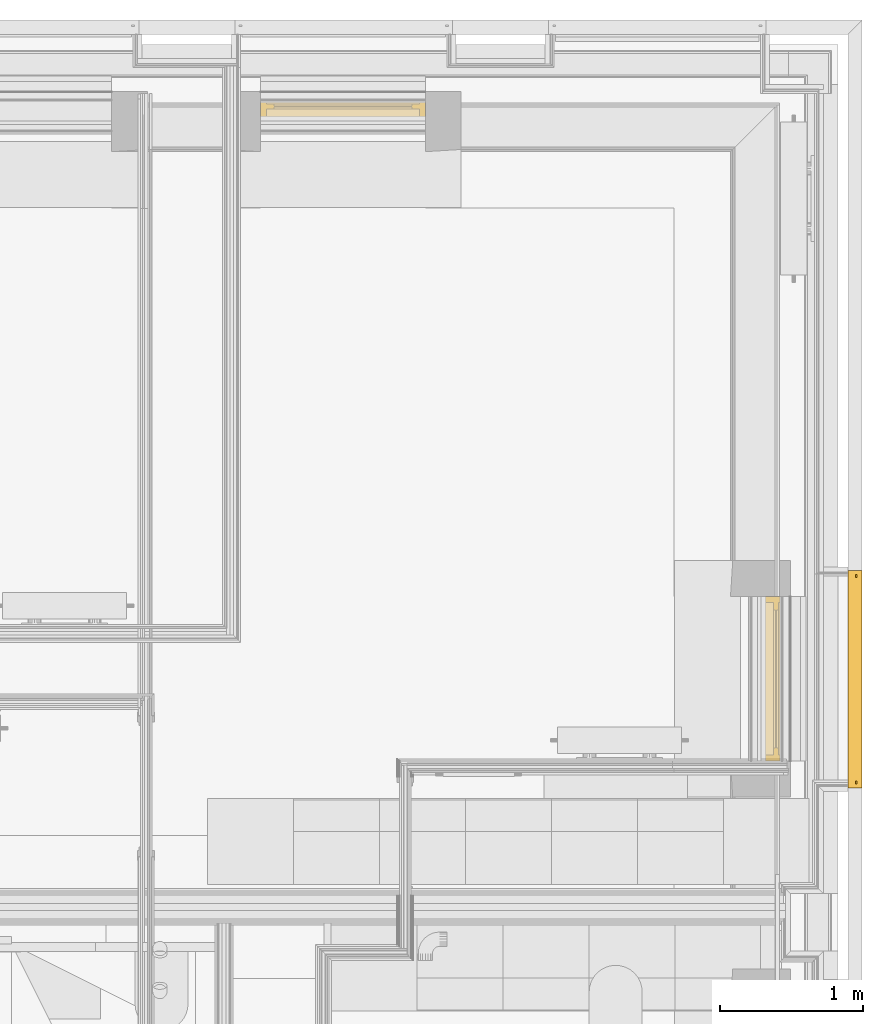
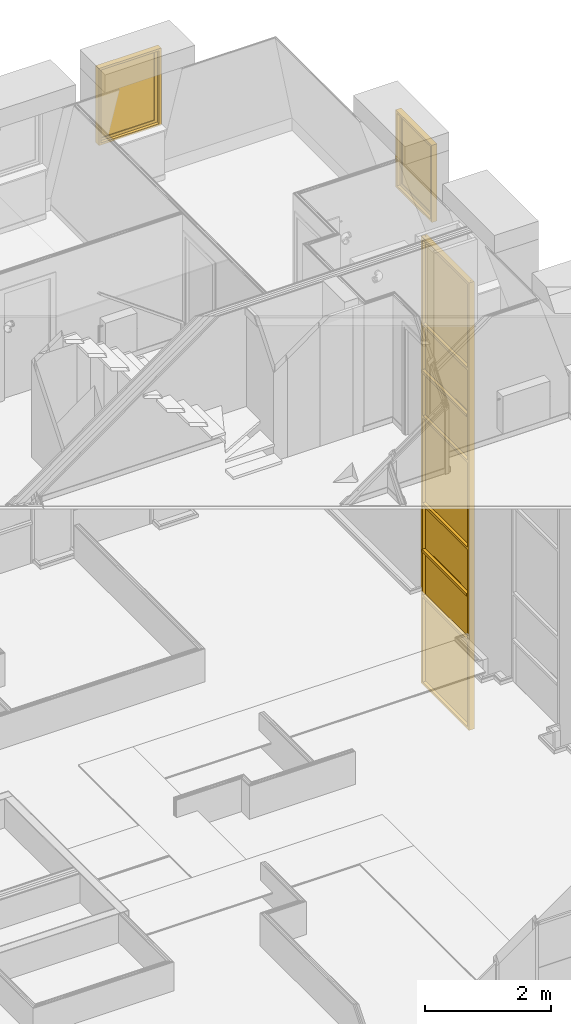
# One storey, part 140 of 169: 2 windows, 1 curtain wall.
"""IFC2X3 building model written with IfcOpenShell, lengths in metres."""

from ifc_helpers import new_model, entity, si_unit, converted_unit, derived_unit, money_unit, direction, frame, origin_with_axes, place, context, subcontext, project, spatial, faceted_brep, material, type_object, element, save


model = new_model("IFC2X3")

# Units and contexts
model_context = context("Model", 3, precision=1e-05, world=origin_with_axes(), true_north=direction((0.0, 1.0)))
body_context = subcontext(model_context, "Body", "Model", "MODEL_VIEW", scale=1.0)
ifc_project = project(units=[si_unit("LENGTHUNIT", "METRE"), si_unit("AREAUNIT", "SQUARE_METRE"), si_unit("VOLUMEUNIT", "CUBIC_METRE"), si_unit("ABSORBEDDOSEUNIT", "GRAY"), si_unit("AMOUNTOFSUBSTANCEUNIT", "MOLE"), si_unit("DOSEEQUIVALENTUNIT", "SIEVERT"), si_unit("ELECTRICCAPACITANCEUNIT", "FARAD"), si_unit("ELECTRICCHARGEUNIT", "COULOMB"), si_unit("ELECTRICCONDUCTANCEUNIT", "SIEMENS"), si_unit("ELECTRICCURRENTUNIT", "AMPERE"), si_unit("ELECTRICRESISTANCEUNIT", "OHM"), si_unit("ELECTRICVOLTAGEUNIT", "VOLT"), si_unit("ENERGYUNIT", "JOULE"), si_unit("FORCEUNIT", "NEWTON"), si_unit("FREQUENCYUNIT", "HERTZ"), si_unit("ILLUMINANCEUNIT", "LUX"), si_unit("INDUCTANCEUNIT", "HENRY"), si_unit("LUMINOUSFLUXUNIT", "LUMEN"), si_unit("LUMINOUSINTENSITYUNIT", "CANDELA"), si_unit("MAGNETICFLUXDENSITYUNIT", "TESLA"), si_unit("MAGNETICFLUXUNIT", "WEBER"), si_unit("MASSUNIT", "GRAM"), converted_unit("PLANEANGLEUNIT", "degree", entity("IfcReal", 0.0174532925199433), si_unit("PLANEANGLEUNIT", "RADIAN"), dimensions=[0, 0, 0, 0, 0, 0, 0]), si_unit("POWERUNIT", "WATT"), si_unit("PRESSUREUNIT", "PASCAL"), si_unit("RADIOACTIVITYUNIT", "BECQUEREL"), si_unit("SOLIDANGLEUNIT", "STERADIAN"), si_unit("THERMODYNAMICTEMPERATUREUNIT", "KELVIN"), si_unit("TIMEUNIT", "SECOND"), derived_unit("ACCELERATIONUNIT", [(si_unit("LENGTHUNIT", "METRE"), 1), (si_unit("TIMEUNIT", "SECOND"), -2)]), derived_unit("ANGULARVELOCITYUNIT", [(converted_unit("PLANEANGLEUNIT", "degree", entity("IfcReal", 0.0174532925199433), si_unit("PLANEANGLEUNIT", "RADIAN"), dimensions=[0, 0, 0, 0, 0, 0, 0]), 1), (si_unit("TIMEUNIT", "SECOND"), -1)]), derived_unit("CURVATUREUNIT", [(converted_unit("PLANEANGLEUNIT", "degree", entity("IfcReal", 0.0174532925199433), si_unit("PLANEANGLEUNIT", "RADIAN"), dimensions=[0, 0, 0, 0, 0, 0, 0]), 1), (si_unit("LENGTHUNIT", "METRE"), -1)]), derived_unit("DYNAMICVISCOSITYUNIT", [(si_unit("PRESSUREUNIT", "PASCAL"), 1), (si_unit("TIMEUNIT", "SECOND"), 1)]), derived_unit("HEATFLUXDENSITYUNIT", [(si_unit("POWERUNIT", "WATT"), 1), (si_unit("LENGTHUNIT", "METRE"), -2)]), derived_unit("HEATINGVALUEUNIT", [(si_unit("ENERGYUNIT", "JOULE"), 1), (si_unit("MASSUNIT", "GRAM"), -1)]), derived_unit("INTEGERCOUNTRATEUNIT", [(si_unit("TIMEUNIT", "SECOND"), -1)]), derived_unit("IONCONCENTRATIONUNIT", [(si_unit("MASSUNIT", "GRAM"), 1), (si_unit("VOLUMEUNIT", "CUBIC_METRE"), -1)]), derived_unit("ISOTHERMALMOISTURECAPACITYUNIT", [(si_unit("VOLUMEUNIT", "CUBIC_METRE"), 1), (si_unit("MASSUNIT", "GRAM"), -1)]), derived_unit("KINEMATICVISCOSITYUNIT", [(si_unit("AREAUNIT", "SQUARE_METRE"), 1), (si_unit("TIMEUNIT", "SECOND"), -1)]), derived_unit("LINEARFORCEUNIT", [(si_unit("FORCEUNIT", "NEWTON"), 1), (si_unit("LENGTHUNIT", "METRE"), -1)]), derived_unit("LINEARMOMENTUNIT", [(si_unit("FORCEUNIT", "NEWTON"), 1), (si_unit("LENGTHUNIT", "METRE"), -1)]), derived_unit("LINEARSTIFFNESSUNIT", [(si_unit("FORCEUNIT", "NEWTON"), 1), (si_unit("LENGTHUNIT", "METRE"), -1)]), derived_unit("LINEARVELOCITYUNIT", [(si_unit("LENGTHUNIT", "METRE"), 1), (si_unit("TIMEUNIT", "SECOND"), -1)]), derived_unit("LUMINOUSINTENSITYDISTRIBUTIONUNIT", [(si_unit("LUMINOUSINTENSITYUNIT", "CANDELA"), 1), (si_unit("LUMINOUSFLUXUNIT", "LUMEN"), -1)]), derived_unit("MASSDENSITYUNIT", [(si_unit("MASSUNIT", "GRAM"), 1), (si_unit("VOLUMEUNIT", "CUBIC_METRE"), -1)]), derived_unit("MASSFLOWRATEUNIT", [(si_unit("MASSUNIT", "GRAM"), 1), (si_unit("TIMEUNIT", "SECOND"), -1)]), derived_unit("MASSPERLENGTHUNIT", [(si_unit("MASSUNIT", "GRAM"), 1), (si_unit("LENGTHUNIT", "METRE"), -1)]), derived_unit("MODULUSOFELASTICITYUNIT", [(si_unit("FORCEUNIT", "NEWTON"), 1), (si_unit("AREAUNIT", "SQUARE_METRE"), -1)]), derived_unit("MODULUSOFLINEARSUBGRADEREACTIONUNIT", [(si_unit("FORCEUNIT", "NEWTON"), 1), (si_unit("LENGTHUNIT", "METRE"), -2)]), derived_unit("MODULUSOFROTATIONALSUBGRADEREACTIONUNIT", [(si_unit("FORCEUNIT", "NEWTON"), 1), (si_unit("LENGTHUNIT", "METRE"), 1)]), derived_unit("MODULUSOFSUBGRADEREACTIONUNIT", [(si_unit("FORCEUNIT", "NEWTON"), 1), (si_unit("VOLUMEUNIT", "CUBIC_METRE"), -1)]), derived_unit("MOISTUREDIFFUSIVITYUNIT", [(si_unit("VOLUMEUNIT", "CUBIC_METRE"), 1), (si_unit("TIMEUNIT", "SECOND"), -1)]), derived_unit("MOLECULARWEIGHTUNIT", [(si_unit("MASSUNIT", "GRAM"), 1), (si_unit("AMOUNTOFSUBSTANCEUNIT", "MOLE"), -1)]), derived_unit("PLANARFORCEUNIT", [(si_unit("FORCEUNIT", "NEWTON"), 1), (si_unit("LENGTHUNIT", "METRE"), -2)]), derived_unit("ROTATIONALFREQUENCYUNIT", [(si_unit("TIMEUNIT", "SECOND"), -1)]), derived_unit("ROTATIONALMASSUNIT", [(si_unit("MASSUNIT", "GRAM"), 1), (si_unit("LENGTHUNIT", "METRE"), 2)]), derived_unit("ROTATIONALSTIFFNESSUNIT", [(si_unit("FORCEUNIT", "NEWTON"), 1), (si_unit("LENGTHUNIT", "METRE"), 1), (converted_unit("PLANEANGLEUNIT", "degree", entity("IfcReal", 0.0174532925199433), si_unit("PLANEANGLEUNIT", "RADIAN"), dimensions=[0, 0, 0, 0, 0, 0, 0]), -1)]), derived_unit("SECTIONAREAINTEGRALUNIT", [(si_unit("LENGTHUNIT", "METRE"), 5)]), derived_unit("SECTIONMODULUSUNIT", [(si_unit("LENGTHUNIT", "METRE"), 3)]), derived_unit("SHEARMODULUSUNIT", [(si_unit("FORCEUNIT", "NEWTON"), 1), (si_unit("AREAUNIT", "SQUARE_METRE"), -1)]), derived_unit("SOUNDPOWERUNIT", [(si_unit("ENERGYUNIT", "JOULE"), 1), (si_unit("TIMEUNIT", "SECOND"), -1)]), derived_unit("SPECIFICHEATCAPACITYUNIT", [(si_unit("FORCEUNIT", "NEWTON"), 1), (si_unit("MASSUNIT", "GRAM"), -1), (si_unit("THERMODYNAMICTEMPERATUREUNIT", "KELVIN"), -1)]), derived_unit("TEMPERATUREGRADIENTUNIT", [(si_unit("THERMODYNAMICTEMPERATUREUNIT", "KELVIN"), 1), (si_unit("LENGTHUNIT", "METRE"), -1)]), derived_unit("THERMALADMITTANCEUNIT", [(si_unit("POWERUNIT", "WATT"), 1), (si_unit("AREAUNIT", "SQUARE_METRE"), -1), (si_unit("THERMODYNAMICTEMPERATUREUNIT", "KELVIN"), -1)]), derived_unit("THERMALCONDUCTANCEUNIT", [(si_unit("POWERUNIT", "WATT"), 1), (si_unit("LENGTHUNIT", "METRE"), -1), (si_unit("THERMODYNAMICTEMPERATUREUNIT", "KELVIN"), -1)]), derived_unit("THERMALEXPANSIONCOEFFICIENTUNIT", [(si_unit("THERMODYNAMICTEMPERATUREUNIT", "KELVIN"), -1)]), derived_unit("THERMALRESISTANCEUNIT", [(si_unit("AREAUNIT", "SQUARE_METRE"), 1), (si_unit("POWERUNIT", "WATT"), -1)]), derived_unit("THERMALTRANSMITTANCEUNIT", [(si_unit("POWERUNIT", "WATT"), 1), (si_unit("AREAUNIT", "SQUARE_METRE"), -1), (si_unit("THERMODYNAMICTEMPERATUREUNIT", "KELVIN"), -1)]), derived_unit("TORQUEUNIT", [(si_unit("FORCEUNIT", "NEWTON"), 1), (si_unit("LENGTHUNIT", "METRE"), 1)]), derived_unit("VAPORPERMEABILITYUNIT", [(si_unit("MASSUNIT", "GRAM"), 1), (si_unit("TIMEUNIT", "SECOND"), -1)]), derived_unit("VOLUMETRICFLOWRATEUNIT", [(si_unit("VOLUMEUNIT", "CUBIC_METRE"), 1), (si_unit("TIMEUNIT", "SECOND"), -1)]), derived_unit("WARPINGCONSTANTUNIT", [(si_unit("LENGTHUNIT", "METRE"), 6)]), derived_unit("WARPINGMOMENTUNIT", [(si_unit("FORCEUNIT", "NEWTON"), 1), (si_unit("LENGTHUNIT", "METRE"), 2)]), money_unit("GBP")], contexts=[model_context])

# Site, building, storey
site_placement = place(None, origin_with_axes())
site = spatial("IfcSite", under=ifc_project, at=site_placement, Name="Site", CompositionType="ELEMENT")
building_placement = place(site_placement, origin_with_axes())
building = spatial("IfcBuilding", under=site, at=building_placement, Name="Building01", CompositionType="ELEMENT")
storey_placement = place(building_placement, frame((0.0, 0.0, 5.15), z_axis=(0.0, 0.0, 1.0), x_axis=(1.0, 0.0, 0.0)))
storey = spatial("IfcBuildingStorey", under=building, at=storey_placement, Name="1F", CompositionType="ELEMENT", Elevation=5.15)

# Curtain wall
ifc_material_1 = material(Name="A-CurtainWall_Frame")
curtain_wall_type = type_object("IfcCurtainWallType", Name="Pattern - Maximum Spacing", PredefinedType="NOTDEFINED")
curtain_wall_placement = place(storey_placement, frame((0.0, 0.0, -5.15), z_axis=(0.0, 0.0, 1.0), x_axis=(1.0, 0.0, 0.0)))
element("IfcCurtainWall", 1, at=curtain_wall_placement, inside=storey, type_object=curtain_wall_type, material=ifc_material_1, Name="30", ObjectType="Pattern - Maximum Spacing", context=body_context, shape_type="Brep", body=[
    faceted_brep([(26.935, 9.56718, 6.045508), (26.945, 9.56718, 6.045508), (26.945, 9.56718, 7.729632), (26.935, 9.56718, 7.729632), (26.935, 11.02718, 6.045508), (26.945, 11.02718, 6.045508), (26.935, 11.02718, 7.729632), (26.945, 11.02718, 7.729632)], [[[0, 1, 2, 3]], [[4, 5, 1, 0]], [[6, 7, 5, 4]], [[3, 2, 7, 6]], [[1, 5, 7, 2]], [[3, 6, 4, 0]]]),
    faceted_brep([(26.935, 9.56718, 6.015508), (26.945, 9.56718, 6.015508), (26.945, 9.58718, 6.015508), (26.98, 9.58718, 6.015508), (26.98, 9.53718, 6.015508), (26.88, 9.53718, 6.015508), (26.88, 9.58718, 6.015508), (26.935, 9.58718, 6.015508), (26.935, 9.58718, 7.734632), (26.935, 9.56718, 7.734632), (26.945, 9.56718, 7.734632), (26.945, 9.58718, 7.734632), (26.98, 9.58718, 7.734632), (26.98, 9.53718, 7.734632), (26.88, 9.53718, 7.734632), (26.88, 9.58718, 7.734632)], [[[0, 1, 2, 3, 4, 5, 6, 7]], [[7, 8, 9, 0]], [[0, 9, 10, 1]], [[1, 10, 11, 2]], [[2, 11, 12, 3]], [[3, 12, 13, 4]], [[4, 13, 14, 5]], [[5, 14, 15, 6]], [[6, 15, 8, 7]]]),
    faceted_brep([(26.935, 11.00718, 6.045508), (26.945, 11.00718, 6.045508), (26.945, 11.00718, 6.065508), (26.98, 11.00718, 6.065508), (26.98, 11.00718, 6.015508), (26.88, 11.00718, 6.015508), (26.88, 11.00718, 6.065508), (26.935, 11.00718, 6.065508), (26.935, 9.58718, 6.065508), (26.935, 9.58718, 6.045508), (26.945, 9.58718, 6.045508), (26.945, 9.58718, 6.065508), (26.98, 9.58718, 6.065508), (26.98, 9.58718, 6.015508), (26.88, 9.58718, 6.015508), (26.88, 9.58718, 6.065508)], [[[0, 1, 2, 3, 4, 5, 6, 7]], [[7, 8, 9, 0]], [[0, 9, 10, 1]], [[1, 10, 11, 2]], [[2, 11, 12, 3]], [[3, 12, 13, 4]], [[4, 13, 14, 5]], [[5, 14, 15, 6]], [[6, 15, 8, 7]], [[8, 15, 14, 13, 12, 11, 10, 9]]]),
    faceted_brep([(26.88, 11.00718, 6.015508), (26.88, 11.00718, 7.734632), (26.88, 11.05718, 7.734632), (26.88, 11.05718, 6.015508), (26.935, 11.00718, 6.015508), (26.935, 11.00718, 7.734632), (26.935, 11.02718, 6.015508), (26.935, 11.02718, 7.734632), (26.945, 11.02718, 6.015508), (26.945, 11.02718, 7.734632), (26.945, 11.00718, 6.015508), (26.945, 11.00718, 7.734632), (26.98, 11.00718, 6.015508), (26.98, 11.00718, 7.734632), (26.98, 11.05718, 6.015508), (26.98, 11.05718, 7.734632)], [[[0, 1, 2, 3]], [[4, 5, 1, 0]], [[6, 7, 5, 4]], [[8, 9, 7, 6]], [[10, 11, 9, 8]], [[12, 13, 11, 10]], [[14, 15, 13, 12]], [[3, 2, 15, 14]], [[14, 12, 10, 8, 6, 4, 0, 3]]]),
    faceted_brep([(26.935, 9.58718, 7.729632), (26.945, 9.58718, 7.729632), (26.945, 9.58718, 7.709632), (26.98, 9.58718, 7.709632), (26.98, 9.58718, 7.759632), (26.945, 9.58718, 7.759632), (26.945, 9.58718, 7.739632), (26.935, 9.58718, 7.739632), (26.935, 9.58718, 7.759632), (26.88, 9.58718, 7.759632), (26.88, 9.58718, 7.709632), (26.935, 9.58718, 7.709632), (26.935, 11.00718, 7.709632), (26.935, 11.00718, 7.729632), (26.945, 11.00718, 7.729632), (26.945, 11.00718, 7.709632), (26.98, 11.00718, 7.709632), (26.98, 11.00718, 7.759632), (26.945, 11.00718, 7.759632), (26.935, 11.00718, 7.739632), (26.935, 11.00718, 7.759632), (26.945, 11.00718, 7.739632), (26.88, 11.00718, 7.709632), (26.88, 11.00718, 7.759632)], [[[0, 1, 2, 3, 4, 5, 6, 7, 8, 9, 10, 11]], [[11, 12, 13, 0]], [[0, 13, 14, 1]], [[1, 14, 15, 2]], [[2, 15, 16, 3]], [[3, 16, 17, 4]], [[4, 17, 18, 5]], [[7, 19, 20, 8]], [[6, 21, 19, 7]], [[5, 18, 21, 6]], [[10, 22, 12, 11]], [[9, 23, 22, 10]], [[8, 20, 23, 9]], [[20, 19, 21, 18, 17, 16, 15, 14, 13, 12, 22, 23]]]),
    faceted_brep([(26.93, 9.56718, 7.739632), (26.95, 9.56718, 7.739632), (26.95, 9.56718, 8.626522), (26.93, 9.56718, 8.626522), (26.93, 11.02718, 7.739632), (26.95, 11.02718, 7.739632), (26.93, 11.02718, 8.626522), (26.95, 11.02718, 8.626522)], [[[0, 1, 2, 3]], [[4, 5, 1, 0]], [[6, 7, 5, 4]], [[3, 2, 7, 6]], [[1, 5, 7, 2]], [[3, 6, 4, 0]]]),
    faceted_brep([(26.88, 9.58718, 8.631522), (26.88, 9.58718, 7.734632), (26.88, 9.53718, 7.734632), (26.88, 9.53718, 8.631522), (26.935, 9.58718, 8.631522), (26.935, 9.58718, 7.734632), (26.935, 9.56718, 8.631522), (26.935, 9.56718, 7.734632), (26.945, 9.56718, 8.631522), (26.945, 9.56718, 7.734632), (26.945, 9.58718, 8.631522), (26.945, 9.58718, 7.734632), (26.98, 9.58718, 8.631522), (26.98, 9.58718, 7.734632), (26.98, 9.53718, 8.631522), (26.98, 9.53718, 7.734632)], [[[0, 1, 2, 3]], [[4, 5, 1, 0]], [[6, 7, 5, 4]], [[8, 9, 7, 6]], [[10, 11, 9, 8]], [[12, 13, 11, 10]], [[14, 15, 13, 12]], [[3, 2, 15, 14]]]),
    faceted_brep([(26.88, 11.00718, 7.734632), (26.88, 11.00718, 8.631522), (26.88, 11.05718, 8.631522), (26.88, 11.05718, 7.734632), (26.935, 11.00718, 7.734632), (26.935, 11.00718, 8.631522), (26.935, 11.02718, 7.734632), (26.935, 11.02718, 8.631522), (26.945, 11.02718, 7.734632), (26.945, 11.02718, 8.631522), (26.945, 11.00718, 7.734632), (26.945, 11.00718, 8.631522), (26.98, 11.00718, 7.734632), (26.98, 11.00718, 8.631522), (26.98, 11.05718, 7.734632), (26.98, 11.05718, 8.631522)], [[[0, 1, 2, 3]], [[4, 5, 1, 0]], [[6, 7, 5, 4]], [[8, 9, 7, 6]], [[10, 11, 9, 8]], [[12, 13, 11, 10]], [[14, 15, 13, 12]], [[3, 2, 15, 14]]]),
    faceted_brep([(26.9175, 9.58718, 8.626522), (26.9275, 9.58718, 8.626522), (26.9275, 9.58718, 8.606522), (26.9625, 9.58718, 8.606522), (26.9625, 9.58718, 8.656522), (26.9275, 9.58718, 8.656522), (26.9275, 9.58718, 8.636522), (26.9175, 9.58718, 8.636522), (26.9175, 9.58718, 8.656522), (26.8625, 9.58718, 8.656522), (26.8625, 9.58718, 8.606522), (26.9175, 9.58718, 8.606522), (26.9175, 11.00718, 8.606522), (26.9175, 11.00718, 8.626522), (26.9275, 11.00718, 8.626522), (26.9275, 11.00718, 8.606522), (26.9625, 11.00718, 8.606522), (26.9625, 11.00718, 8.656522), (26.9275, 11.00718, 8.656522), (26.9175, 11.00718, 8.636522), (26.9175, 11.00718, 8.656522), (26.9275, 11.00718, 8.636522), (26.8625, 11.00718, 8.606522), (26.8625, 11.00718, 8.656522)], [[[0, 1, 2, 3, 4, 5, 6, 7, 8, 9, 10, 11]], [[11, 12, 13, 0]], [[0, 13, 14, 1]], [[1, 14, 15, 2]], [[2, 15, 16, 3]], [[3, 16, 17, 4]], [[4, 17, 18, 5]], [[7, 19, 20, 8]], [[6, 21, 19, 7]], [[5, 18, 21, 6]], [[10, 22, 12, 11]], [[9, 23, 22, 10]], [[8, 20, 23, 9]], [[20, 19, 21, 18, 17, 16, 15, 14, 13, 12, 22, 23]]]),
    faceted_brep([(26.93, 9.56718, 8.636522), (26.95, 9.56718, 8.636522), (26.95, 9.56718, 9.523411), (26.93, 9.56718, 9.523411), (26.93, 11.02718, 8.636522), (26.95, 11.02718, 8.636522), (26.93, 11.02718, 9.523411), (26.95, 11.02718, 9.523411)], [[[0, 1, 2, 3]], [[4, 5, 1, 0]], [[6, 7, 5, 4]], [[3, 2, 7, 6]], [[1, 5, 7, 2]], [[3, 6, 4, 0]]]),
    faceted_brep([(26.88, 9.58718, 9.528411), (26.88, 9.58718, 8.631522), (26.88, 9.53718, 8.631522), (26.88, 9.53718, 9.528411), (26.935, 9.58718, 9.528411), (26.935, 9.58718, 8.631522), (26.935, 9.56718, 9.528411), (26.935, 9.56718, 8.631522), (26.945, 9.56718, 9.528411), (26.945, 9.56718, 8.631522), (26.945, 9.58718, 9.528411), (26.945, 9.58718, 8.631522), (26.98, 9.58718, 9.528411), (26.98, 9.58718, 8.631522), (26.98, 9.53718, 9.528411), (26.98, 9.53718, 8.631522)], [[[0, 1, 2, 3]], [[4, 5, 1, 0]], [[6, 7, 5, 4]], [[8, 9, 7, 6]], [[10, 11, 9, 8]], [[12, 13, 11, 10]], [[14, 15, 13, 12]], [[3, 2, 15, 14]]]),
    faceted_brep([(26.88, 11.00718, 8.631522), (26.88, 11.00718, 9.528411), (26.88, 11.05718, 9.528411), (26.88, 11.05718, 8.631522), (26.935, 11.00718, 8.631522), (26.935, 11.00718, 9.528411), (26.935, 11.02718, 8.631522), (26.935, 11.02718, 9.528411), (26.945, 11.02718, 8.631522), (26.945, 11.02718, 9.528411), (26.945, 11.00718, 8.631522), (26.945, 11.00718, 9.528411), (26.98, 11.00718, 8.631522), (26.98, 11.00718, 9.528411), (26.98, 11.05718, 8.631522), (26.98, 11.05718, 9.528411)], [[[0, 1, 2, 3]], [[4, 5, 1, 0]], [[6, 7, 5, 4]], [[8, 9, 7, 6]], [[10, 11, 9, 8]], [[12, 13, 11, 10]], [[14, 15, 13, 12]], [[3, 2, 15, 14]]]),
    faceted_brep([(26.935, 9.58718, 9.523411), (26.945, 9.58718, 9.523411), (26.945, 9.58718, 9.503411), (26.98, 9.58718, 9.503411), (26.98, 9.58718, 9.553411), (26.945, 9.58718, 9.553411), (26.945, 9.58718, 9.533411), (26.935, 9.58718, 9.533411), (26.935, 9.58718, 9.553411), (26.88, 9.58718, 9.553411), (26.88, 9.58718, 9.503411), (26.935, 9.58718, 9.503411), (26.935, 11.00718, 9.503411), (26.935, 11.00718, 9.523411), (26.945, 11.00718, 9.523411), (26.945, 11.00718, 9.503411), (26.98, 11.00718, 9.503411), (26.98, 11.00718, 9.553411), (26.945, 11.00718, 9.553411), (26.935, 11.00718, 9.533411), (26.935, 11.00718, 9.553411), (26.945, 11.00718, 9.533411), (26.88, 11.00718, 9.503411), (26.88, 11.00718, 9.553411)], [[[0, 1, 2, 3, 4, 5, 6, 7, 8, 9, 10, 11]], [[11, 12, 13, 0]], [[0, 13, 14, 1]], [[1, 14, 15, 2]], [[2, 15, 16, 3]], [[3, 16, 17, 4]], [[4, 17, 18, 5]], [[7, 19, 20, 8]], [[6, 21, 19, 7]], [[5, 18, 21, 6]], [[10, 22, 12, 11]], [[9, 23, 22, 10]], [[8, 20, 23, 9]], [[20, 19, 21, 18, 17, 16, 15, 14, 13, 12, 22, 23]]]),
    faceted_brep([(26.935, 9.56718, 9.533411), (26.945, 9.56718, 9.533411), (26.945, 9.56718, 11.217536), (26.935, 9.56718, 11.217536), (26.935, 11.02718, 9.533411), (26.945, 11.02718, 9.533411), (26.935, 11.02718, 11.217536), (26.945, 11.02718, 11.217536)], [[[0, 1, 2, 3]], [[4, 5, 1, 0]], [[6, 7, 5, 4]], [[3, 2, 7, 6]], [[1, 5, 7, 2]], [[3, 6, 4, 0]]]),
    faceted_brep([(26.88, 9.58718, 11.222536), (26.88, 9.58718, 9.528411), (26.88, 9.53718, 9.528411), (26.88, 9.53718, 11.222536), (26.935, 9.58718, 11.222536), (26.935, 9.58718, 9.528411), (26.935, 9.56718, 11.222536), (26.935, 9.56718, 9.528411), (26.945, 9.56718, 11.222536), (26.945, 9.56718, 9.528411), (26.945, 9.58718, 11.222536), (26.945, 9.58718, 9.528411), (26.98, 9.58718, 11.222536), (26.98, 9.58718, 9.528411), (26.98, 9.53718, 11.222536), (26.98, 9.53718, 9.528411)], [[[0, 1, 2, 3]], [[4, 5, 1, 0]], [[6, 7, 5, 4]], [[8, 9, 7, 6]], [[10, 11, 9, 8]], [[12, 13, 11, 10]], [[14, 15, 13, 12]], [[3, 2, 15, 14]]]),
    faceted_brep([(26.88, 11.00718, 9.528411), (26.88, 11.00718, 11.222536), (26.88, 11.05718, 11.222536), (26.88, 11.05718, 9.528411), (26.935, 11.00718, 9.528411), (26.935, 11.00718, 11.222536), (26.935, 11.02718, 9.528411), (26.935, 11.02718, 11.222536), (26.945, 11.02718, 9.528411), (26.945, 11.02718, 11.222536), (26.945, 11.00718, 9.528411), (26.945, 11.00718, 11.222536), (26.98, 11.00718, 9.528411), (26.98, 11.00718, 11.222536), (26.98, 11.05718, 9.528411), (26.98, 11.05718, 11.222536)], [[[0, 1, 2, 3]], [[4, 5, 1, 0]], [[6, 7, 5, 4]], [[8, 9, 7, 6]], [[10, 11, 9, 8]], [[12, 13, 11, 10]], [[14, 15, 13, 12]], [[3, 2, 15, 14]]]),
    faceted_brep([(26.935, 9.58718, 11.217536), (26.945, 9.58718, 11.217536), (26.945, 9.58718, 11.197536), (26.98, 9.58718, 11.197536), (26.98, 9.58718, 11.247536), (26.945, 9.58718, 11.247536), (26.945, 9.58718, 11.227536), (26.935, 9.58718, 11.227536), (26.935, 9.58718, 11.247536), (26.88, 9.58718, 11.247536), (26.88, 9.58718, 11.197536), (26.935, 9.58718, 11.197536), (26.935, 11.00718, 11.197536), (26.935, 11.00718, 11.217536), (26.945, 11.00718, 11.217536), (26.945, 11.00718, 11.197536), (26.98, 11.00718, 11.197536), (26.98, 11.00718, 11.247536), (26.945, 11.00718, 11.247536), (26.935, 11.00718, 11.227536), (26.935, 11.00718, 11.247536), (26.945, 11.00718, 11.227536), (26.88, 11.00718, 11.197536), (26.88, 11.00718, 11.247536)], [[[0, 1, 2, 3, 4, 5, 6, 7, 8, 9, 10, 11]], [[11, 12, 13, 0]], [[0, 13, 14, 1]], [[1, 14, 15, 2]], [[2, 15, 16, 3]], [[3, 16, 17, 4]], [[4, 17, 18, 5]], [[7, 19, 20, 8]], [[6, 21, 19, 7]], [[5, 18, 21, 6]], [[10, 22, 12, 11]], [[9, 23, 22, 10]], [[8, 20, 23, 9]], [[20, 19, 21, 18, 17, 16, 15, 14, 13, 12, 22, 23]]]),
    faceted_brep([(26.93, 9.56718, 11.227536), (26.95, 9.56718, 11.227536), (26.95, 9.56718, 12.114425), (26.93, 9.56718, 12.114425), (26.93, 11.02718, 11.227536), (26.95, 11.02718, 11.227536), (26.93, 11.02718, 12.114425), (26.95, 11.02718, 12.114425)], [[[0, 1, 2, 3]], [[4, 5, 1, 0]], [[6, 7, 5, 4]], [[3, 2, 7, 6]], [[1, 5, 7, 2]], [[3, 6, 4, 0]]]),
    faceted_brep([(26.88, 9.58718, 12.119425), (26.88, 9.58718, 11.222536), (26.88, 9.53718, 11.222536), (26.88, 9.53718, 12.119425), (26.935, 9.58718, 12.119425), (26.935, 9.58718, 11.222536), (26.935, 9.56718, 12.119425), (26.935, 9.56718, 11.222536), (26.945, 9.56718, 12.119425), (26.945, 9.56718, 11.222536), (26.945, 9.58718, 12.119425), (26.945, 9.58718, 11.222536), (26.98, 9.58718, 12.119425), (26.98, 9.58718, 11.222536), (26.98, 9.53718, 12.119425), (26.98, 9.53718, 11.222536)], [[[0, 1, 2, 3]], [[4, 5, 1, 0]], [[6, 7, 5, 4]], [[8, 9, 7, 6]], [[10, 11, 9, 8]], [[12, 13, 11, 10]], [[14, 15, 13, 12]], [[3, 2, 15, 14]]]),
    faceted_brep([(26.88, 11.00718, 11.222536), (26.88, 11.00718, 12.119425), (26.88, 11.05718, 12.119425), (26.88, 11.05718, 11.222536), (26.935, 11.00718, 11.222536), (26.935, 11.00718, 12.119425), (26.935, 11.02718, 11.222536), (26.935, 11.02718, 12.119425), (26.945, 11.02718, 11.222536), (26.945, 11.02718, 12.119425), (26.945, 11.00718, 11.222536), (26.945, 11.00718, 12.119425), (26.98, 11.00718, 11.222536), (26.98, 11.00718, 12.119425), (26.98, 11.05718, 11.222536), (26.98, 11.05718, 12.119425)], [[[0, 1, 2, 3]], [[4, 5, 1, 0]], [[6, 7, 5, 4]], [[8, 9, 7, 6]], [[10, 11, 9, 8]], [[12, 13, 11, 10]], [[14, 15, 13, 12]], [[3, 2, 15, 14]]]),
    faceted_brep([(26.9175, 9.58718, 12.114425), (26.9275, 9.58718, 12.114425), (26.9275, 9.58718, 12.094425), (26.9625, 9.58718, 12.094425), (26.9625, 9.58718, 12.144425), (26.9275, 9.58718, 12.144425), (26.9275, 9.58718, 12.124425), (26.9175, 9.58718, 12.124425), (26.9175, 9.58718, 12.144425), (26.8625, 9.58718, 12.144425), (26.8625, 9.58718, 12.094425), (26.9175, 9.58718, 12.094425), (26.9175, 11.00718, 12.094425), (26.9175, 11.00718, 12.114425), (26.9275, 11.00718, 12.114425), (26.9275, 11.00718, 12.094425), (26.9625, 11.00718, 12.094425), (26.9625, 11.00718, 12.144425), (26.9275, 11.00718, 12.144425), (26.9175, 11.00718, 12.124425), (26.9175, 11.00718, 12.144425), (26.9275, 11.00718, 12.124425), (26.8625, 11.00718, 12.094425), (26.8625, 11.00718, 12.144425)], [[[0, 1, 2, 3, 4, 5, 6, 7, 8, 9, 10, 11]], [[11, 12, 13, 0]], [[0, 13, 14, 1]], [[1, 14, 15, 2]], [[2, 15, 16, 3]], [[3, 16, 17, 4]], [[4, 17, 18, 5]], [[7, 19, 20, 8]], [[6, 21, 19, 7]], [[5, 18, 21, 6]], [[10, 22, 12, 11]], [[9, 23, 22, 10]], [[8, 20, 23, 9]], [[20, 19, 21, 18, 17, 16, 15, 14, 13, 12, 22, 23]]]),
    faceted_brep([(26.935, 11.02718, 14.685508), (26.945, 11.02718, 14.685508), (26.945, 11.02718, 13.021314), (26.935, 11.02718, 13.021314), (26.935, 9.56718, 14.685508), (26.945, 9.56718, 14.685508), (26.935, 9.56718, 13.021314), (26.945, 9.56718, 13.021314)], [[[0, 1, 2, 3]], [[4, 5, 1, 0]], [[6, 7, 5, 4]], [[3, 2, 7, 6]], [[1, 5, 7, 2]], [[3, 6, 4, 0]]]),
    faceted_brep([(26.88, 11.00718, 14.715508), (26.935, 11.00718, 14.715508), (26.935, 11.02718, 14.715508), (26.945, 11.02718, 14.715508), (26.945, 11.00718, 14.715508), (26.98, 11.00718, 14.715508), (26.98, 11.05718, 14.715508), (26.88, 11.05718, 14.715508), (26.88, 11.05718, 13.016314), (26.88, 11.00718, 13.016314), (26.935, 11.00718, 13.016314), (26.935, 11.02718, 13.016314), (26.945, 11.02718, 13.016314), (26.945, 11.00718, 13.016314), (26.98, 11.00718, 13.016314), (26.98, 11.05718, 13.016314)], [[[0, 1, 2, 3, 4, 5, 6, 7]], [[7, 8, 9, 0]], [[0, 9, 10, 1]], [[1, 10, 11, 2]], [[2, 11, 12, 3]], [[3, 12, 13, 4]], [[4, 13, 14, 5]], [[5, 14, 15, 6]], [[6, 15, 8, 7]]]),
    faceted_brep([(26.88, 9.58718, 14.665508), (26.935, 9.58718, 14.665508), (26.935, 9.58718, 14.685508), (26.945, 9.58718, 14.685508), (26.945, 9.58718, 14.665508), (26.98, 9.58718, 14.665508), (26.98, 9.58718, 14.715508), (26.88, 9.58718, 14.715508), (26.88, 11.00718, 14.715508), (26.88, 11.00718, 14.665508), (26.935, 11.00718, 14.665508), (26.935, 11.00718, 14.685508), (26.945, 11.00718, 14.685508), (26.945, 11.00718, 14.665508), (26.98, 11.00718, 14.665508), (26.98, 11.00718, 14.715508)], [[[0, 1, 2, 3, 4, 5, 6, 7]], [[7, 8, 9, 0]], [[0, 9, 10, 1]], [[1, 10, 11, 2]], [[2, 11, 12, 3]], [[3, 12, 13, 4]], [[4, 13, 14, 5]], [[5, 14, 15, 6]], [[6, 15, 8, 7]], [[8, 15, 14, 13, 12, 11, 10, 9]]]),
    faceted_brep([(26.935, 9.56718, 14.715508), (26.935, 9.56718, 13.016314), (26.935, 9.58718, 13.016314), (26.935, 9.58718, 14.715508), (26.945, 9.56718, 14.715508), (26.945, 9.56718, 13.016314), (26.945, 9.58718, 14.715508), (26.945, 9.58718, 13.016314), (26.98, 9.58718, 14.715508), (26.98, 9.58718, 13.016314), (26.98, 9.53718, 14.715508), (26.98, 9.53718, 13.016314), (26.88, 9.53718, 14.715508), (26.88, 9.53718, 13.016314), (26.88, 9.58718, 14.715508), (26.88, 9.58718, 13.016314)], [[[0, 1, 2, 3]], [[4, 5, 1, 0]], [[6, 7, 5, 4]], [[8, 9, 7, 6]], [[10, 11, 9, 8]], [[12, 13, 11, 10]], [[14, 15, 13, 12]], [[3, 2, 15, 14]], [[14, 12, 10, 8, 6, 4, 0, 3]]]),
    faceted_brep([(26.945, 11.00718, 13.011314), (26.935, 11.00718, 13.011314), (26.935, 11.00718, 12.991314), (26.88, 11.00718, 12.991314), (26.88, 11.00718, 13.041314), (26.935, 11.00718, 13.041314), (26.935, 11.00718, 13.021314), (26.945, 11.00718, 13.021314), (26.945, 11.00718, 13.041314), (26.98, 11.00718, 13.041314), (26.98, 11.00718, 12.991314), (26.945, 11.00718, 12.991314), (26.945, 9.58718, 12.991314), (26.945, 9.58718, 13.011314), (26.935, 9.58718, 13.011314), (26.935, 9.58718, 12.991314), (26.88, 9.58718, 12.991314), (26.88, 9.58718, 13.041314), (26.935, 9.58718, 13.041314), (26.945, 9.58718, 13.021314), (26.945, 9.58718, 13.041314), (26.935, 9.58718, 13.021314), (26.98, 9.58718, 12.991314), (26.98, 9.58718, 13.041314)], [[[0, 1, 2, 3, 4, 5, 6, 7, 8, 9, 10, 11]], [[11, 12, 13, 0]], [[0, 13, 14, 1]], [[1, 14, 15, 2]], [[2, 15, 16, 3]], [[3, 16, 17, 4]], [[4, 17, 18, 5]], [[7, 19, 20, 8]], [[6, 21, 19, 7]], [[5, 18, 21, 6]], [[10, 22, 12, 11]], [[9, 23, 22, 10]], [[8, 20, 23, 9]], [[20, 19, 21, 18, 17, 16, 15, 14, 13, 12, 22, 23]]]),
    faceted_brep([(26.93, 9.56718, 12.124425), (26.95, 9.56718, 12.124425), (26.95, 9.56718, 13.011314), (26.93, 9.56718, 13.011314), (26.93, 11.02718, 12.124425), (26.95, 11.02718, 12.124425), (26.93, 11.02718, 13.011314), (26.95, 11.02718, 13.011314)], [[[0, 1, 2, 3]], [[4, 5, 1, 0]], [[6, 7, 5, 4]], [[3, 2, 7, 6]], [[1, 5, 7, 2]], [[3, 6, 4, 0]]]),
    faceted_brep([(26.88, 9.58718, 13.016314), (26.88, 9.58718, 12.119425), (26.88, 9.53718, 12.119425), (26.88, 9.53718, 13.016314), (26.935, 9.58718, 13.016314), (26.935, 9.58718, 12.119425), (26.935, 9.56718, 13.016314), (26.935, 9.56718, 12.119425), (26.945, 9.56718, 13.016314), (26.945, 9.56718, 12.119425), (26.945, 9.58718, 13.016314), (26.945, 9.58718, 12.119425), (26.98, 9.58718, 13.016314), (26.98, 9.58718, 12.119425), (26.98, 9.53718, 13.016314), (26.98, 9.53718, 12.119425)], [[[0, 1, 2, 3]], [[4, 5, 1, 0]], [[6, 7, 5, 4]], [[8, 9, 7, 6]], [[10, 11, 9, 8]], [[12, 13, 11, 10]], [[14, 15, 13, 12]], [[3, 2, 15, 14]]]),
    faceted_brep([(26.88, 11.00718, 12.119425), (26.88, 11.00718, 13.016314), (26.88, 11.05718, 13.016314), (26.88, 11.05718, 12.119425), (26.935, 11.00718, 12.119425), (26.935, 11.00718, 13.016314), (26.935, 11.02718, 12.119425), (26.935, 11.02718, 13.016314), (26.945, 11.02718, 12.119425), (26.945, 11.02718, 13.016314), (26.945, 11.00718, 12.119425), (26.945, 11.00718, 13.016314), (26.98, 11.00718, 12.119425), (26.98, 11.00718, 13.016314), (26.98, 11.05718, 12.119425), (26.98, 11.05718, 13.016314)], [[[0, 1, 2, 3]], [[4, 5, 1, 0]], [[6, 7, 5, 4]], [[8, 9, 7, 6]], [[10, 11, 9, 8]], [[12, 13, 11, 10]], [[14, 15, 13, 12]], [[3, 2, 15, 14]]]),
])

# Space
space_1_placement = place(storey_placement, frame((23.178821, 7.549915, 9.86), z_axis=(0.0, 0.0, 1.0), x_axis=(0.0, 1.0, 0.0)))
space_1 = spatial("IfcSpace", under=storey, at=space_1_placement, Name="3", CompositionType="ELEMENT", InteriorOrExteriorSpace="NOTDEFINED")

# Window
ifc_material_2 = material(Name="A_BSUK_Windows")
window_style = type_object("IfcWindowStyle", Name="A-Awning", ConstructionType="NOTDEFINED", OperationType="USERDEFINED", ParameterTakesPrecedence=False, Sizeable=False)
window_1_placement = place(storey_placement, frame((22.780024, 14.350061, 10.83), z_axis=(0.0, 0.0, 1.0), x_axis=(-1.0, 0.0, 0.0)))
element("IfcWindow", 2, at=window_1_placement, inside=space_1, type_object=window_style, material=ifc_material_2, Name="4.23", ObjectType="A-Awning", OverallHeight=1.50000000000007, OverallWidth=1.15000000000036, context=body_context, shape_type="Brep", body=[
    faceted_brep([(-1.108, 0.0254, 0.042), (-0.042, 0.0254, 0.042), (-0.042, 0.1254, 0.042), (-1.108, 0.1254, 0.042), (-1.108, 0.0254, 1.458), (-1.108, 0.1254, 1.458), (-0.042, 0.0254, 1.458), (-0.042, 0.1254, 1.458), (0.0, 0.0254, 0.0), (0.0, 0.0254, 1.5), (-1.15, 0.0254, 1.5), (-1.15, 0.0254, 0.0), (0.0, 0.1254, 1.5), (-1.15, 0.1254, 1.5), (-1.15, 0.1254, 0.0), (0.0, 0.1254, 0.0)], [[[0, 1, 2, 3]], [[4, 0, 3, 5]], [[6, 4, 5, 7]], [[8, 9, 10, 11], [4, 6, 1, 0]], [[1, 6, 7, 2]], [[12, 13, 10, 9]], [[14, 15, 8, 11]], [[13, 14, 11, 10]], [[13, 12, 15, 14], [2, 7, 5, 3]], [[15, 12, 9, 8]]]),
    faceted_brep([(-1.0572, 0.0354, 0.0928), (-0.0928, 0.0354, 0.0928), (-0.0928, 0.0704, 0.0928), (-1.0572, 0.0704, 0.0928), (-1.0572, 0.0354, 1.4072), (-1.0572, 0.0704, 1.4072), (-0.0928, 0.0354, 1.4072), (-0.0928, 0.0704, 1.4072), (-1.108, 0.0704, 1.458), (-0.042, 0.0704, 1.458), (-0.042, 0.0704, 0.042), (-1.108, 0.0704, 0.042), (-1.108, 0.0354, 1.458), (-0.042, 0.0354, 1.458), (-0.042, 0.0354, 0.042), (-1.108, 0.0354, 0.042)], [[[0, 1, 2, 3]], [[4, 0, 3, 5]], [[6, 4, 5, 7]], [[8, 9, 10, 11], [2, 7, 5, 3]], [[9, 8, 12, 13]], [[10, 9, 13, 14]], [[11, 10, 14, 15]], [[8, 11, 15, 12]], [[14, 13, 12, 15], [4, 6, 1, 0]], [[1, 6, 7, 2]]]),
    faceted_brep([(-0.0928, 0.049725, 0.0928), (-0.0928, 0.056075, 0.0928), (-0.0928, 0.056075, 1.4072), (-0.0928, 0.049725, 1.4072), (-1.0572, 0.049725, 1.4072), (-1.0572, 0.056075, 1.4072), (-1.0572, 0.056075, 0.0928), (-1.0572, 0.049725, 0.0928)], [[[0, 1, 2, 3]], [[4, 5, 6, 7]], [[3, 2, 5, 4]], [[3, 4, 7, 0]], [[7, 6, 1, 0]], [[1, 6, 5, 2]]]),
])

# Space
space_2_placement = place(storey_placement, frame((16.03844, 8.82, 9.86), z_axis=(0.0, 0.0, 1.0), x_axis=(0.0, -1.0, 0.0)))
space_2 = spatial("IfcSpace", under=storey, at=space_2_placement, Name="23", CompositionType="ELEMENT", InteriorOrExteriorSpace="NOTDEFINED")

# Window
window_2_placement = place(storey_placement, frame((26.430061, 10.874915, 10.83), z_axis=(0.0, 0.0, 1.0), x_axis=(0.0, 1.0, 0.0)))
element("IfcWindow", 3, at=window_2_placement, inside=space_2, type_object=window_style, material=ifc_material_2, Name="4.24", ObjectType="A-Awning", OverallHeight=1.50000000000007, OverallWidth=1.15000000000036, context=body_context, shape_type="Brep", body=[
    faceted_brep([(-1.108, 0.0254, 0.042), (-0.042, 0.0254, 0.042), (-0.042, 0.1254, 0.042), (-1.108, 0.1254, 0.042), (-1.108, 0.0254, 1.458), (-1.108, 0.1254, 1.458), (-0.042, 0.0254, 1.458), (-0.042, 0.1254, 1.458), (0.0, 0.0254, 0.0), (0.0, 0.0254, 1.5), (-1.15, 0.0254, 1.5), (-1.15, 0.0254, 0.0), (0.0, 0.1254, 1.5), (-1.15, 0.1254, 1.5), (-1.15, 0.1254, 0.0), (0.0, 0.1254, 0.0)], [[[0, 1, 2, 3]], [[4, 0, 3, 5]], [[6, 4, 5, 7]], [[8, 9, 10, 11], [4, 6, 1, 0]], [[1, 6, 7, 2]], [[12, 13, 10, 9]], [[14, 15, 8, 11]], [[13, 14, 11, 10]], [[13, 12, 15, 14], [2, 7, 5, 3]], [[15, 12, 9, 8]]]),
    faceted_brep([(-1.0572, 0.0354, 0.0928), (-0.0928, 0.0354, 0.0928), (-0.0928, 0.0704, 0.0928), (-1.0572, 0.0704, 0.0928), (-1.0572, 0.0354, 1.4072), (-1.0572, 0.0704, 1.4072), (-0.0928, 0.0354, 1.4072), (-0.0928, 0.0704, 1.4072), (-1.108, 0.0704, 1.458), (-0.042, 0.0704, 1.458), (-0.042, 0.0704, 0.042), (-1.108, 0.0704, 0.042), (-1.108, 0.0354, 1.458), (-0.042, 0.0354, 1.458), (-0.042, 0.0354, 0.042), (-1.108, 0.0354, 0.042)], [[[0, 1, 2, 3]], [[4, 0, 3, 5]], [[6, 4, 5, 7]], [[8, 9, 10, 11], [2, 7, 5, 3]], [[9, 8, 12, 13]], [[10, 9, 13, 14]], [[11, 10, 14, 15]], [[8, 11, 15, 12]], [[14, 13, 12, 15], [4, 6, 1, 0]], [[1, 6, 7, 2]]]),
    faceted_brep([(-0.0928, 0.049725, 0.0928), (-0.0928, 0.056075, 0.0928), (-0.0928, 0.056075, 1.4072), (-0.0928, 0.049725, 1.4072), (-1.0572, 0.049725, 1.4072), (-1.0572, 0.056075, 1.4072), (-1.0572, 0.056075, 0.0928), (-1.0572, 0.049725, 0.0928)], [[[0, 1, 2, 3]], [[4, 5, 6, 7]], [[3, 2, 5, 4]], [[3, 4, 7, 0]], [[7, 6, 1, 0]], [[1, 6, 5, 2]]]),
])

save(model, "model.ifc")
